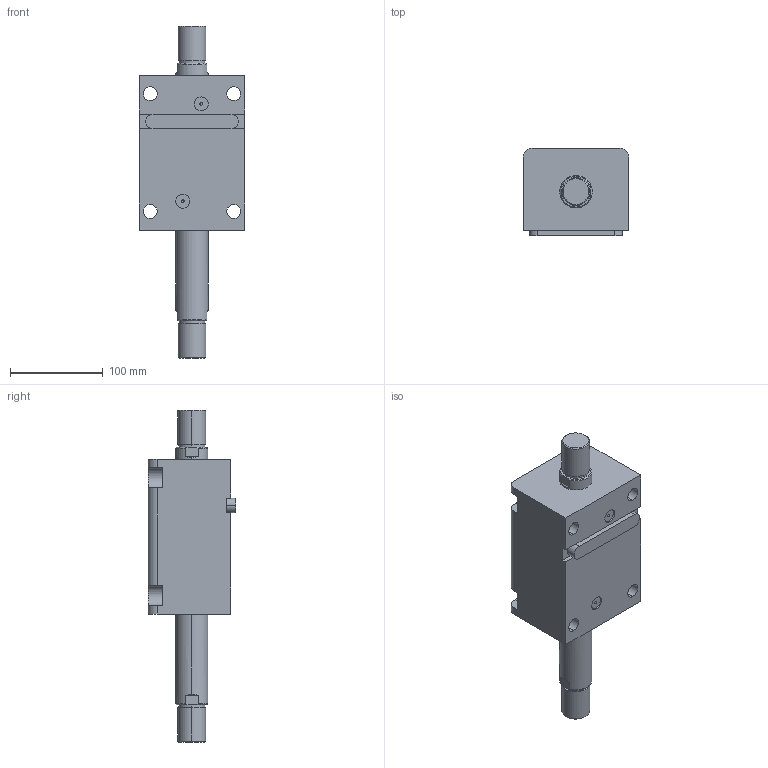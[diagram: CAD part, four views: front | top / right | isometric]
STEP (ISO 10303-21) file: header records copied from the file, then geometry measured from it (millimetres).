
FILE_DESCRIPTION (( 'STEP AP203' ), '1' );
FILE_NAME ('HTB-LWM63-85W.STEP', '2020-12-25T03:54:35', ( '微软用户' ), ( '微软中国' ), 'SwSTEP 2.0', 'SolidWorks 2012', '' );
FILE_SCHEMA (( 'CONFIG_CONTROL_DESIGN' ));
Length unit declared in the file: millimetre
Products named in the file (4): HTB-LWM63-85掛极; HTB-LWM63-85W活塞杆; HTB-LWM63-瑩; HTB-LWM63-85W
Assembly tree (3 placements, depth 2):
  HTB-LWM63-85W
    HTB-LWM63-85掛极
    HTB-LWM63-85W活塞杆
    HTB-LWM63-瑩
Bounding box: 114 x 94.5 x 358 mm (x, y, z)
Volume: 1594738.7 mm3; surface area: 183904.1 mm2
Topology: 3 solids, 3 shells, 113 faces, 273 edges, 178 vertices
Faces by surface type: cylinder 49, plane 48, torus 8, cone 8
Entity records: 3783 total; most frequent: CARTESIAN_POINT 626, DIRECTION 617, ORIENTED_EDGE 546, EDGE_CURVE 273, AXIS2_PLACEMENT_3D 241, VERTEX_POINT 178, EDGE_LOOP 135, LINE 135
